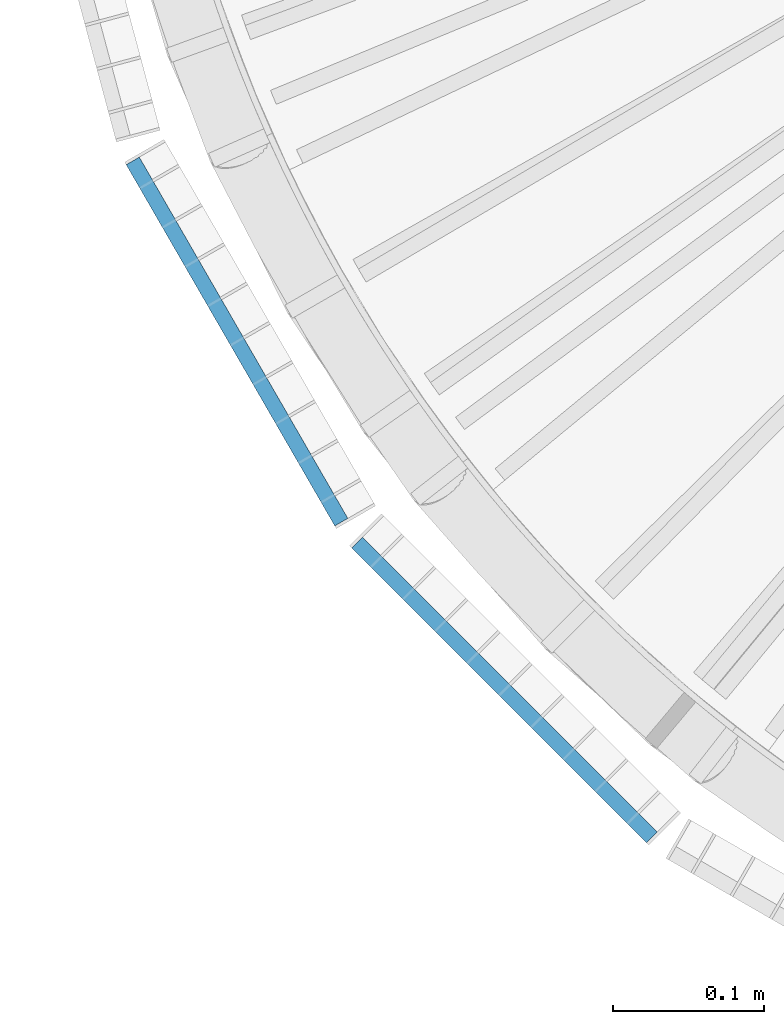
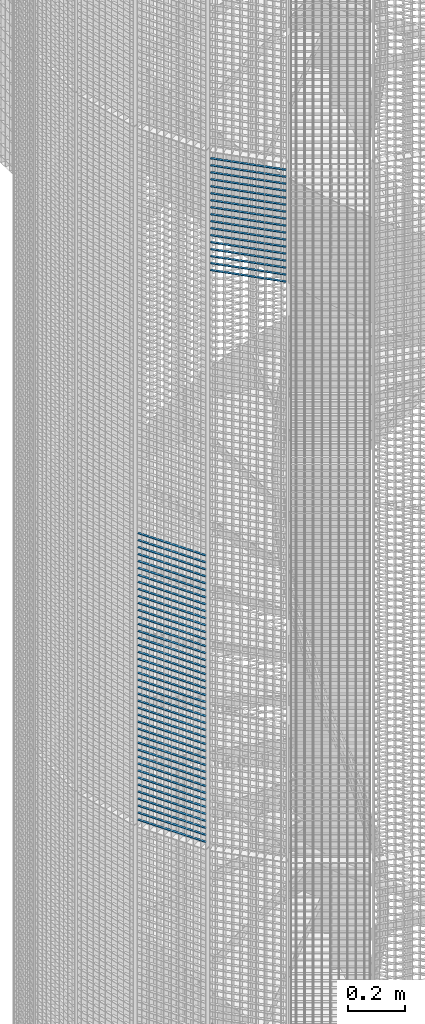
# One storey, part 373 of 1183: 59 beams, 2 elements without a shape of their own.
"""IFC2X3 building model written with IfcOpenShell, lengths in millimetres."""

from ifc_helpers import new_model, si_unit, frame, origin_with_axes, origin_2d_with_axis, place, context, subcontext, project, spatial, rectangle, extrude, material, type_object, element, aggregate, save


model = new_model("IFC2X3")

# Units and contexts
model_context = context("Model", 3, precision=1e-05, world=origin_with_axes())
body_context = subcontext(model_context, "Body", "Model", "MODEL_VIEW")
ifc_project = project(units=[si_unit("LENGTHUNIT", "METRE", prefix="MILLI"), si_unit("AREAUNIT", "SQUARE_METRE"), si_unit("VOLUMEUNIT", "CUBIC_METRE"), si_unit("MASSUNIT", "GRAM", prefix="KILO"), si_unit("TIMEUNIT", "SECOND"), si_unit("PLANEANGLEUNIT", "RADIAN"), si_unit("SOLIDANGLEUNIT", "STERADIAN"), si_unit("THERMODYNAMICTEMPERATUREUNIT", "DEGREE_CELSIUS"), si_unit("LUMINOUSINTENSITYUNIT", "LUMEN")], contexts=[model_context])

# Site, building, storey
site_placement = place(None, origin_with_axes())
site = spatial("IfcSite", under=ifc_project, at=site_placement, Name="Undefined", CompositionType="ELEMENT")
building_placement = place(site_placement, origin_with_axes())
building = spatial("IfcBuilding", under=site, at=building_placement, Name="Undefined", CompositionType="ELEMENT")
storey_placement = place(building_placement, origin_with_axes())
storey = spatial("IfcBuildingStorey", under=building, at=storey_placement, Name="Undefined", CompositionType="ELEMENT", Elevation=0.0)

# Assembly, beams
assembly_1_placement = place(storey_placement, origin_with_axes())
assembly_1 = element("IfcElementAssembly", 1, at=assembly_1_placement, inside=storey, Name="BORDURE", AssemblyPlace="NOTDEFINED", PredefinedType="NOTDEFINED")
ifc_material = material(Name="STEEL/S235JR")
beam_type = type_object("IfcBeamType", Name="PL2*10", PredefinedType="NOTDEFINED")
beam_1_placement = place(assembly_1_placement, frame((20704.6960350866, -676.248044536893, 4260.0), z_axis=(-0.866025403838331, -0.499999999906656, 0.0), x_axis=(-0.49999999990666, 0.866025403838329, 0.0)))
beam_1 = element("IfcBeam", 2, at=beam_1_placement, type_object=beam_type, material=ifc_material, Name="ENTRETOISE", context=body_context, shape_type="SweptSolid", body=[
    extrude(rectangle(XDim=2.0, YDim=10.0, at=origin_2d_with_axis()), frame((275.999999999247, 9.09494701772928e-13, 1.53210777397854e-14), z_axis=(-1.0, 0.0, 0.0), x_axis=(0.0, -1.0, 0.0)), (0.0, 0.0, 1.0), 276.0),
])
beam_2_placement = place(assembly_1_placement, frame((20704.6960350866, -676.248044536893, 4230.0), z_axis=(-0.866025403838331, -0.499999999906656, 0.0), x_axis=(-0.49999999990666, 0.866025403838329, 0.0)))
beam_2 = element("IfcBeam", 3, at=beam_2_placement, type_object=beam_type, material=ifc_material, Name="ENTRETOISE", context=body_context, shape_type="SweptSolid", body=[
    extrude(rectangle(XDim=2.0, YDim=10.0, at=origin_2d_with_axis()), frame((275.999999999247, 9.09494701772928e-13, 1.53210777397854e-14), z_axis=(-1.0, 0.0, 0.0), x_axis=(0.0, -1.0, 0.0)), (0.0, 0.0, 1.0), 276.0),
])
beam_3_placement = place(assembly_1_placement, frame((20704.6960350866, -676.248044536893, 4200.0), z_axis=(-0.866025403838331, -0.499999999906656, 0.0), x_axis=(-0.49999999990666, 0.866025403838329, 0.0)))
beam_3 = element("IfcBeam", 4, at=beam_3_placement, type_object=beam_type, material=ifc_material, Name="ENTRETOISE", context=body_context, shape_type="SweptSolid", body=[
    extrude(rectangle(XDim=2.0, YDim=10.0, at=origin_2d_with_axis()), frame((275.999999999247, 9.09494701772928e-13, 1.53210777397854e-14), z_axis=(-1.0, 0.0, 0.0), x_axis=(0.0, -1.0, 0.0)), (0.0, 0.0, 1.0), 276.0),
])
beam_4_placement = place(assembly_1_placement, frame((20704.6960350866, -676.248044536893, 4170.0), z_axis=(-0.866025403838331, -0.499999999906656, 0.0), x_axis=(-0.49999999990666, 0.866025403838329, 0.0)))
beam_4 = element("IfcBeam", 5, at=beam_4_placement, type_object=beam_type, material=ifc_material, Name="ENTRETOISE", context=body_context, shape_type="SweptSolid", body=[
    extrude(rectangle(XDim=2.0, YDim=10.0, at=origin_2d_with_axis()), frame((275.999999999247, 9.09494701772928e-13, 1.53210777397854e-14), z_axis=(-1.0, 0.0, 0.0), x_axis=(0.0, -1.0, 0.0)), (0.0, 0.0, 1.0), 276.0),
])
beam_5_placement = place(assembly_1_placement, frame((20704.6960350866, -676.248044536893, 4140.0), z_axis=(-0.866025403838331, -0.499999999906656, 0.0), x_axis=(-0.49999999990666, 0.866025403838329, 0.0)))
beam_5 = element("IfcBeam", 6, at=beam_5_placement, type_object=beam_type, material=ifc_material, Name="ENTRETOISE", context=body_context, shape_type="SweptSolid", body=[
    extrude(rectangle(XDim=2.0, YDim=10.0, at=origin_2d_with_axis()), frame((275.999999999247, 9.09494701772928e-13, 1.53210777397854e-14), z_axis=(-1.0, 0.0, 0.0), x_axis=(0.0, -1.0, 0.0)), (0.0, 0.0, 1.0), 276.0),
])
beam_6_placement = place(assembly_1_placement, frame((20704.6960350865, -676.248044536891, 3720.0), z_axis=(-0.866025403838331, -0.499999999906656, 0.0), x_axis=(-0.49999999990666, 0.866025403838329, 0.0)))
beam_6 = element("IfcBeam", 7, at=beam_6_placement, type_object=beam_type, material=ifc_material, Name="ENTRETOISE", context=body_context, shape_type="SweptSolid", body=[
    extrude(rectangle(XDim=2.0, YDim=10.0, at=origin_2d_with_axis()), frame((275.999999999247, 9.09494701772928e-13, 1.53210777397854e-14), z_axis=(-1.0, 0.0, 0.0), x_axis=(0.0, -1.0, 0.0)), (0.0, 0.0, 1.0), 276.0),
])
beam_7_placement = place(assembly_1_placement, frame((20704.6960350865, -676.248044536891, 3690.0), z_axis=(-0.866025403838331, -0.499999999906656, 0.0), x_axis=(-0.49999999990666, 0.866025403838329, 0.0)))
beam_7 = element("IfcBeam", 8, at=beam_7_placement, type_object=beam_type, material=ifc_material, Name="ENTRETOISE", context=body_context, shape_type="SweptSolid", body=[
    extrude(rectangle(XDim=2.0, YDim=10.0, at=origin_2d_with_axis()), frame((275.999999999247, 9.09494701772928e-13, 1.53210777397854e-14), z_axis=(-1.0, 0.0, 0.0), x_axis=(0.0, -1.0, 0.0)), (0.0, 0.0, 1.0), 276.0),
])
beam_8_placement = place(assembly_1_placement, frame((20704.6960350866, -676.248044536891, 3750.0), z_axis=(-0.866025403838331, -0.499999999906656, 0.0), x_axis=(-0.49999999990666, 0.866025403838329, 0.0)))
beam_8 = element("IfcBeam", 9, at=beam_8_placement, type_object=beam_type, material=ifc_material, Name="ENTRETOISE", context=body_context, shape_type="SweptSolid", body=[
    extrude(rectangle(XDim=2.0, YDim=10.0, at=origin_2d_with_axis()), frame((275.999999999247, 9.09494701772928e-13, 1.53210777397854e-14), z_axis=(-1.0, 0.0, 0.0), x_axis=(0.0, -1.0, 0.0)), (0.0, 0.0, 1.0), 276.0),
])
beam_9_placement = place(assembly_1_placement, frame((20704.6960350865, -676.248044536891, 3660.0), z_axis=(-0.866025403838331, -0.499999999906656, 0.0), x_axis=(-0.49999999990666, 0.866025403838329, 0.0)))
beam_9 = element("IfcBeam", 10, at=beam_9_placement, type_object=beam_type, material=ifc_material, Name="ENTRETOISE", context=body_context, shape_type="SweptSolid", body=[
    extrude(rectangle(XDim=2.0, YDim=10.0, at=origin_2d_with_axis()), frame((275.999999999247, 9.09494701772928e-13, 1.53210777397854e-14), z_axis=(-1.0, 0.0, 0.0), x_axis=(0.0, -1.0, 0.0)), (0.0, 0.0, 1.0), 276.0),
])
beam_10_placement = place(assembly_1_placement, frame((20704.6960350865, -676.248044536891, 3630.0), z_axis=(-0.866025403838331, -0.499999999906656, 0.0), x_axis=(-0.49999999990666, 0.866025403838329, 0.0)))
beam_10 = element("IfcBeam", 11, at=beam_10_placement, type_object=beam_type, material=ifc_material, Name="ENTRETOISE", context=body_context, shape_type="SweptSolid", body=[
    extrude(rectangle(XDim=2.0, YDim=10.0, at=origin_2d_with_axis()), frame((275.999999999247, 9.09494701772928e-13, 1.53210777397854e-14), z_axis=(-1.0, 0.0, 0.0), x_axis=(0.0, -1.0, 0.0)), (0.0, 0.0, 1.0), 276.0),
])
beam_11_placement = place(assembly_1_placement, frame((20704.6960350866, -676.248044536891, 3780.0), z_axis=(-0.866025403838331, -0.499999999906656, 0.0), x_axis=(-0.49999999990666, 0.866025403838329, 0.0)))
beam_11 = element("IfcBeam", 12, at=beam_11_placement, type_object=beam_type, material=ifc_material, Name="ENTRETOISE", context=body_context, shape_type="SweptSolid", body=[
    extrude(rectangle(XDim=2.0, YDim=10.0, at=origin_2d_with_axis()), frame((275.999999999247, 9.09494701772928e-13, 1.53210777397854e-14), z_axis=(-1.0, 0.0, 0.0), x_axis=(0.0, -1.0, 0.0)), (0.0, 0.0, 1.0), 276.0),
])
beam_12_placement = place(assembly_1_placement, frame((20704.6960350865, -676.248044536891, 3600.0), z_axis=(-0.866025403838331, -0.499999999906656, 0.0), x_axis=(-0.49999999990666, 0.866025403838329, 0.0)))
beam_12 = element("IfcBeam", 13, at=beam_12_placement, type_object=beam_type, material=ifc_material, Name="ENTRETOISE", context=body_context, shape_type="SweptSolid", body=[
    extrude(rectangle(XDim=2.0, YDim=10.0, at=origin_2d_with_axis()), frame((275.999999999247, 9.09494701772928e-13, 1.53210777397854e-14), z_axis=(-1.0, 0.0, 0.0), x_axis=(0.0, -1.0, 0.0)), (0.0, 0.0, 1.0), 276.0),
])
beam_13_placement = place(assembly_1_placement, frame((20704.6960350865, -676.248044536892, 3810.0), z_axis=(-0.866025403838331, -0.499999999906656, 0.0), x_axis=(-0.49999999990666, 0.866025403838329, 0.0)))
beam_13 = element("IfcBeam", 14, at=beam_13_placement, type_object=beam_type, material=ifc_material, Name="ENTRETOISE", context=body_context, shape_type="SweptSolid", body=[
    extrude(rectangle(XDim=2.0, YDim=10.0, at=origin_2d_with_axis()), frame((275.999999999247, 9.09494701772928e-13, 1.53210777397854e-14), z_axis=(-1.0, 0.0, 0.0), x_axis=(0.0, -1.0, 0.0)), (0.0, 0.0, 1.0), 276.0),
])
beam_14_placement = place(assembly_1_placement, frame((20704.6960350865, -676.248044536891, 3570.0), z_axis=(-0.866025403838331, -0.499999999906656, 0.0), x_axis=(-0.49999999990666, 0.866025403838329, 0.0)))
beam_14 = element("IfcBeam", 15, at=beam_14_placement, type_object=beam_type, material=ifc_material, Name="ENTRETOISE", context=body_context, shape_type="SweptSolid", body=[
    extrude(rectangle(XDim=2.0, YDim=10.0, at=origin_2d_with_axis()), frame((275.999999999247, 9.09494701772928e-13, 1.53210777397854e-14), z_axis=(-1.0, 0.0, 0.0), x_axis=(0.0, -1.0, 0.0)), (0.0, 0.0, 1.0), 276.0),
])
beam_15_placement = place(assembly_1_placement, frame((20704.6960350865, -676.248044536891, 3540.0), z_axis=(-0.866025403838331, -0.499999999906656, 0.0), x_axis=(-0.49999999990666, 0.866025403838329, 0.0)))
beam_15 = element("IfcBeam", 16, at=beam_15_placement, type_object=beam_type, material=ifc_material, Name="ENTRETOISE", context=body_context, shape_type="SweptSolid", body=[
    extrude(rectangle(XDim=2.0, YDim=10.0, at=origin_2d_with_axis()), frame((275.999999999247, 9.09494701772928e-13, 1.53210777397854e-14), z_axis=(-1.0, 0.0, 0.0), x_axis=(0.0, -1.0, 0.0)), (0.0, 0.0, 1.0), 276.0),
])
beam_16_placement = place(assembly_1_placement, frame((20704.6960350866, -676.248044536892, 3840.0), z_axis=(-0.866025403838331, -0.499999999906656, 0.0), x_axis=(-0.49999999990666, 0.866025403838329, 0.0)))
beam_16 = element("IfcBeam", 17, at=beam_16_placement, type_object=beam_type, material=ifc_material, Name="ENTRETOISE", context=body_context, shape_type="SweptSolid", body=[
    extrude(rectangle(XDim=2.0, YDim=10.0, at=origin_2d_with_axis()), frame((275.999999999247, 9.09494701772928e-13, 1.53210777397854e-14), z_axis=(-1.0, 0.0, 0.0), x_axis=(0.0, -1.0, 0.0)), (0.0, 0.0, 1.0), 276.0),
])
beam_17_placement = place(assembly_1_placement, frame((20704.6960350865, -676.248044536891, 3510.0), z_axis=(-0.866025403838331, -0.499999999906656, 0.0), x_axis=(-0.49999999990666, 0.866025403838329, 0.0)))
beam_17 = element("IfcBeam", 18, at=beam_17_placement, type_object=beam_type, material=ifc_material, Name="ENTRETOISE", context=body_context, shape_type="SweptSolid", body=[
    extrude(rectangle(XDim=2.0, YDim=10.0, at=origin_2d_with_axis()), frame((275.999999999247, 9.09494701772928e-13, 1.53210777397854e-14), z_axis=(-1.0, 0.0, 0.0), x_axis=(0.0, -1.0, 0.0)), (0.0, 0.0, 1.0), 276.0),
])
beam_18_placement = place(assembly_1_placement, frame((20704.6960350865, -676.248044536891, 3480.0), z_axis=(-0.866025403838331, -0.499999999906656, 0.0), x_axis=(-0.49999999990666, 0.866025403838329, 0.0)))
beam_18 = element("IfcBeam", 19, at=beam_18_placement, type_object=beam_type, material=ifc_material, Name="ENTRETOISE", context=body_context, shape_type="SweptSolid", body=[
    extrude(rectangle(XDim=2.0, YDim=10.0, at=origin_2d_with_axis()), frame((275.999999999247, 9.09494701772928e-13, 1.53210777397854e-14), z_axis=(-1.0, 0.0, 0.0), x_axis=(0.0, -1.0, 0.0)), (0.0, 0.0, 1.0), 276.0),
])
beam_19_placement = place(assembly_1_placement, frame((20704.6960350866, -676.248044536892, 3870.0), z_axis=(-0.866025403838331, -0.499999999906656, 0.0), x_axis=(-0.49999999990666, 0.866025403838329, 0.0)))
beam_19 = element("IfcBeam", 20, at=beam_19_placement, type_object=beam_type, material=ifc_material, Name="ENTRETOISE", context=body_context, shape_type="SweptSolid", body=[
    extrude(rectangle(XDim=2.0, YDim=10.0, at=origin_2d_with_axis()), frame((275.999999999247, 9.09494701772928e-13, 1.53210777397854e-14), z_axis=(-1.0, 0.0, 0.0), x_axis=(0.0, -1.0, 0.0)), (0.0, 0.0, 1.0), 276.0),
])
beam_20_placement = place(assembly_1_placement, frame((20704.6960350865, -676.248044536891, 3450.0), z_axis=(-0.866025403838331, -0.499999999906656, 0.0), x_axis=(-0.49999999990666, 0.866025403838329, 0.0)))
beam_20 = element("IfcBeam", 21, at=beam_20_placement, type_object=beam_type, material=ifc_material, Name="ENTRETOISE", context=body_context, shape_type="SweptSolid", body=[
    extrude(rectangle(XDim=2.0, YDim=10.0, at=origin_2d_with_axis()), frame((275.999999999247, 9.09494701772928e-13, 1.53210777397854e-14), z_axis=(-1.0, 0.0, 0.0), x_axis=(0.0, -1.0, 0.0)), (0.0, 0.0, 1.0), 276.0),
])
beam_21_placement = place(assembly_1_placement, frame((20704.6960350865, -676.24804453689, 3420.0), z_axis=(-0.866025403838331, -0.499999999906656, 0.0), x_axis=(-0.49999999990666, 0.866025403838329, 0.0)))
beam_21 = element("IfcBeam", 22, at=beam_21_placement, type_object=beam_type, material=ifc_material, Name="ENTRETOISE", context=body_context, shape_type="SweptSolid", body=[
    extrude(rectangle(XDim=2.0, YDim=10.0, at=origin_2d_with_axis()), frame((275.999999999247, 9.09494701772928e-13, 1.53210777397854e-14), z_axis=(-1.0, 0.0, 0.0), x_axis=(0.0, -1.0, 0.0)), (0.0, 0.0, 1.0), 276.0),
])
beam_22_placement = place(assembly_1_placement, frame((20704.6960350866, -676.248044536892, 3900.0), z_axis=(-0.866025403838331, -0.499999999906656, 0.0), x_axis=(-0.49999999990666, 0.866025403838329, 0.0)))
beam_22 = element("IfcBeam", 23, at=beam_22_placement, type_object=beam_type, material=ifc_material, Name="ENTRETOISE", context=body_context, shape_type="SweptSolid", body=[
    extrude(rectangle(XDim=2.0, YDim=10.0, at=origin_2d_with_axis()), frame((275.999999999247, 9.09494701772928e-13, 1.53210777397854e-14), z_axis=(-1.0, 0.0, 0.0), x_axis=(0.0, -1.0, 0.0)), (0.0, 0.0, 1.0), 276.0),
])
beam_23_placement = place(assembly_1_placement, frame((20704.6960350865, -676.24804453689, 3390.0), z_axis=(-0.866025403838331, -0.499999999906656, 0.0), x_axis=(-0.49999999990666, 0.866025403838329, 0.0)))
beam_23 = element("IfcBeam", 24, at=beam_23_placement, type_object=beam_type, material=ifc_material, Name="ENTRETOISE", context=body_context, shape_type="SweptSolid", body=[
    extrude(rectangle(XDim=2.0, YDim=10.0, at=origin_2d_with_axis()), frame((275.999999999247, 9.09494701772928e-13, 1.53210777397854e-14), z_axis=(-1.0, 0.0, 0.0), x_axis=(0.0, -1.0, 0.0)), (0.0, 0.0, 1.0), 276.0),
])
beam_24_placement = place(assembly_1_placement, frame((20704.6960350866, -676.248044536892, 3930.0), z_axis=(-0.866025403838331, -0.499999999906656, 0.0), x_axis=(-0.49999999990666, 0.866025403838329, 0.0)))
beam_24 = element("IfcBeam", 25, at=beam_24_placement, type_object=beam_type, material=ifc_material, Name="ENTRETOISE", context=body_context, shape_type="SweptSolid", body=[
    extrude(rectangle(XDim=2.0, YDim=10.0, at=origin_2d_with_axis()), frame((275.999999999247, 9.09494701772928e-13, 1.53210777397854e-14), z_axis=(-1.0, 0.0, 0.0), x_axis=(0.0, -1.0, 0.0)), (0.0, 0.0, 1.0), 276.0),
])
beam_25_placement = place(assembly_1_placement, frame((20704.6960350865, -676.24804453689, 3360.0), z_axis=(-0.866025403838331, -0.499999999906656, 0.0), x_axis=(-0.49999999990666, 0.866025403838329, 0.0)))
beam_25 = element("IfcBeam", 26, at=beam_25_placement, type_object=beam_type, material=ifc_material, Name="ENTRETOISE", context=body_context, shape_type="SweptSolid", body=[
    extrude(rectangle(XDim=2.0, YDim=10.0, at=origin_2d_with_axis()), frame((275.999999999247, 9.09494701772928e-13, 1.53210777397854e-14), z_axis=(-1.0, 0.0, 0.0), x_axis=(0.0, -1.0, 0.0)), (0.0, 0.0, 1.0), 276.0),
])
beam_26_placement = place(assembly_1_placement, frame((20704.6960350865, -676.24804453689, 3330.0), z_axis=(-0.866025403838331, -0.499999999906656, 0.0), x_axis=(-0.49999999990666, 0.866025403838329, 0.0)))
beam_26 = element("IfcBeam", 27, at=beam_26_placement, type_object=beam_type, material=ifc_material, Name="ENTRETOISE", context=body_context, shape_type="SweptSolid", body=[
    extrude(rectangle(XDim=2.0, YDim=10.0, at=origin_2d_with_axis()), frame((275.999999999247, 9.09494701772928e-13, 1.53210777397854e-14), z_axis=(-1.0, 0.0, 0.0), x_axis=(0.0, -1.0, 0.0)), (0.0, 0.0, 1.0), 276.0),
])
beam_27_placement = place(assembly_1_placement, frame((20704.6960350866, -676.248044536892, 3960.0), z_axis=(-0.866025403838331, -0.499999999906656, 0.0), x_axis=(-0.49999999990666, 0.866025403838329, 0.0)))
beam_27 = element("IfcBeam", 28, at=beam_27_placement, type_object=beam_type, material=ifc_material, Name="ENTRETOISE", context=body_context, shape_type="SweptSolid", body=[
    extrude(rectangle(XDim=2.0, YDim=10.0, at=origin_2d_with_axis()), frame((275.999999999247, 9.09494701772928e-13, 1.53210777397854e-14), z_axis=(-1.0, 0.0, 0.0), x_axis=(0.0, -1.0, 0.0)), (0.0, 0.0, 1.0), 276.0),
])
beam_28_placement = place(assembly_1_placement, frame((20704.6960350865, -676.24804453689, 3300.0), z_axis=(-0.866025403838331, -0.499999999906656, 0.0), x_axis=(-0.49999999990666, 0.866025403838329, 0.0)))
beam_28 = element("IfcBeam", 29, at=beam_28_placement, type_object=beam_type, material=ifc_material, Name="ENTRETOISE", context=body_context, shape_type="SweptSolid", body=[
    extrude(rectangle(XDim=2.0, YDim=10.0, at=origin_2d_with_axis()), frame((275.999999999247, 9.09494701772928e-13, 1.53210777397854e-14), z_axis=(-1.0, 0.0, 0.0), x_axis=(0.0, -1.0, 0.0)), (0.0, 0.0, 1.0), 276.0),
])
beam_29_placement = place(assembly_1_placement, frame((20704.6960350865, -676.24804453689, 3270.0), z_axis=(-0.866025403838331, -0.499999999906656, 0.0), x_axis=(-0.49999999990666, 0.866025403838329, 0.0)))
beam_29 = element("IfcBeam", 30, at=beam_29_placement, type_object=beam_type, material=ifc_material, Name="ENTRETOISE", context=body_context, shape_type="SweptSolid", body=[
    extrude(rectangle(XDim=2.0, YDim=10.0, at=origin_2d_with_axis()), frame((275.999999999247, 9.09494701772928e-13, 1.53210777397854e-14), z_axis=(-1.0, 0.0, 0.0), x_axis=(0.0, -1.0, 0.0)), (0.0, 0.0, 1.0), 276.0),
])
beam_30_placement = place(assembly_1_placement, frame((20704.6960350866, -676.248044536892, 3990.0), z_axis=(-0.866025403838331, -0.499999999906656, 0.0), x_axis=(-0.49999999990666, 0.866025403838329, 0.0)))
beam_30 = element("IfcBeam", 31, at=beam_30_placement, type_object=beam_type, material=ifc_material, Name="ENTRETOISE", context=body_context, shape_type="SweptSolid", body=[
    extrude(rectangle(XDim=2.0, YDim=10.0, at=origin_2d_with_axis()), frame((275.999999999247, 9.09494701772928e-13, 1.53210777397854e-14), z_axis=(-1.0, 0.0, 0.0), x_axis=(0.0, -1.0, 0.0)), (0.0, 0.0, 1.0), 276.0),
])
beam_31_placement = place(assembly_1_placement, frame((20704.6960350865, -676.24804453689, 3240.0), z_axis=(-0.866025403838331, -0.499999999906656, 0.0), x_axis=(-0.49999999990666, 0.866025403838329, 0.0)))
beam_31 = element("IfcBeam", 32, at=beam_31_placement, type_object=beam_type, material=ifc_material, Name="ENTRETOISE", context=body_context, shape_type="SweptSolid", body=[
    extrude(rectangle(XDim=2.0, YDim=10.0, at=origin_2d_with_axis()), frame((275.999999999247, 9.09494701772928e-13, 1.53210777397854e-14), z_axis=(-1.0, 0.0, 0.0), x_axis=(0.0, -1.0, 0.0)), (0.0, 0.0, 1.0), 276.0),
])
beam_32_placement = place(assembly_1_placement, frame((20704.6960350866, -676.248044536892, 4020.0), z_axis=(-0.866025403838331, -0.499999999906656, 0.0), x_axis=(-0.49999999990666, 0.866025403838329, 0.0)))
beam_32 = element("IfcBeam", 33, at=beam_32_placement, type_object=beam_type, material=ifc_material, Name="ENTRETOISE", context=body_context, shape_type="SweptSolid", body=[
    extrude(rectangle(XDim=2.0, YDim=10.0, at=origin_2d_with_axis()), frame((275.999999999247, 9.09494701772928e-13, 1.53210777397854e-14), z_axis=(-1.0, 0.0, 0.0), x_axis=(0.0, -1.0, 0.0)), (0.0, 0.0, 1.0), 276.0),
])
beam_33_placement = place(assembly_1_placement, frame((20704.6960350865, -676.24804453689, 3210.0), z_axis=(-0.866025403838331, -0.499999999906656, 0.0), x_axis=(-0.49999999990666, 0.866025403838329, 0.0)))
beam_33 = element("IfcBeam", 34, at=beam_33_placement, type_object=beam_type, material=ifc_material, Name="ENTRETOISE", context=body_context, shape_type="SweptSolid", body=[
    extrude(rectangle(XDim=2.0, YDim=10.0, at=origin_2d_with_axis()), frame((275.999999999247, 9.09494701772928e-13, 1.53210777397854e-14), z_axis=(-1.0, 0.0, 0.0), x_axis=(0.0, -1.0, 0.0)), (0.0, 0.0, 1.0), 276.0),
])
beam_34_placement = place(assembly_1_placement, frame((20704.6960350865, -676.24804453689, 3180.0), z_axis=(-0.866025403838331, -0.499999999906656, 0.0), x_axis=(-0.49999999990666, 0.866025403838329, 0.0)))
beam_34 = element("IfcBeam", 35, at=beam_34_placement, type_object=beam_type, material=ifc_material, Name="ENTRETOISE", context=body_context, shape_type="SweptSolid", body=[
    extrude(rectangle(XDim=2.0, YDim=10.0, at=origin_2d_with_axis()), frame((275.999999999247, 9.09494701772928e-13, 1.53210777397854e-14), z_axis=(-1.0, 0.0, 0.0), x_axis=(0.0, -1.0, 0.0)), (0.0, 0.0, 1.0), 276.0),
])
beam_35_placement = place(assembly_1_placement, frame((20704.6960350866, -676.248044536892, 4050.0), z_axis=(-0.866025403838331, -0.499999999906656, 0.0), x_axis=(-0.49999999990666, 0.866025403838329, 0.0)))
beam_35 = element("IfcBeam", 36, at=beam_35_placement, type_object=beam_type, material=ifc_material, Name="ENTRETOISE", context=body_context, shape_type="SweptSolid", body=[
    extrude(rectangle(XDim=2.0, YDim=10.0, at=origin_2d_with_axis()), frame((275.999999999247, 9.09494701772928e-13, 1.53210777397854e-14), z_axis=(-1.0, 0.0, 0.0), x_axis=(0.0, -1.0, 0.0)), (0.0, 0.0, 1.0), 276.0),
])
beam_36_placement = place(assembly_1_placement, frame((20704.6960350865, -676.24804453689, 3150.0), z_axis=(-0.866025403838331, -0.499999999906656, 0.0), x_axis=(-0.49999999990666, 0.866025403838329, 0.0)))
beam_36 = element("IfcBeam", 37, at=beam_36_placement, type_object=beam_type, material=ifc_material, Name="ENTRETOISE", context=body_context, shape_type="SweptSolid", body=[
    extrude(rectangle(XDim=2.0, YDim=10.0, at=origin_2d_with_axis()), frame((275.999999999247, 9.09494701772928e-13, 1.53210777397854e-14), z_axis=(-1.0, 0.0, 0.0), x_axis=(0.0, -1.0, 0.0)), (0.0, 0.0, 1.0), 276.0),
])
beam_37_placement = place(assembly_1_placement, frame((20704.6960350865, -676.24804453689, 3120.0), z_axis=(-0.866025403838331, -0.499999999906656, 0.0), x_axis=(-0.49999999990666, 0.866025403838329, 0.0)))
beam_37 = element("IfcBeam", 38, at=beam_37_placement, type_object=beam_type, material=ifc_material, Name="ENTRETOISE", context=body_context, shape_type="SweptSolid", body=[
    extrude(rectangle(XDim=2.0, YDim=10.0, at=origin_2d_with_axis()), frame((275.999999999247, 9.09494701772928e-13, 1.53210777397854e-14), z_axis=(-1.0, 0.0, 0.0), x_axis=(0.0, -1.0, 0.0)), (0.0, 0.0, 1.0), 276.0),
])
beam_38_placement = place(assembly_1_placement, frame((20704.6960350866, -676.248044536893, 4080.0), z_axis=(-0.866025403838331, -0.499999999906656, 0.0), x_axis=(-0.49999999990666, 0.866025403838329, 0.0)))
beam_38 = element("IfcBeam", 39, at=beam_38_placement, type_object=beam_type, material=ifc_material, Name="ENTRETOISE", context=body_context, shape_type="SweptSolid", body=[
    extrude(rectangle(XDim=2.0, YDim=10.0, at=origin_2d_with_axis()), frame((275.999999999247, 9.09494701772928e-13, 1.53210777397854e-14), z_axis=(-1.0, 0.0, 0.0), x_axis=(0.0, -1.0, 0.0)), (0.0, 0.0, 1.0), 276.0),
])
beam_39_placement = place(assembly_1_placement, frame((20704.6960350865, -676.248044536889, 3090.0), z_axis=(-0.866025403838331, -0.499999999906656, 0.0), x_axis=(-0.49999999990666, 0.866025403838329, 0.0)))
beam_39 = element("IfcBeam", 40, at=beam_39_placement, type_object=beam_type, material=ifc_material, Name="ENTRETOISE", context=body_context, shape_type="SweptSolid", body=[
    extrude(rectangle(XDim=2.0, YDim=10.0, at=origin_2d_with_axis()), frame((275.999999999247, 9.09494701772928e-13, 1.53210777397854e-14), z_axis=(-1.0, 0.0, 0.0), x_axis=(0.0, -1.0, 0.0)), (0.0, 0.0, 1.0), 276.0),
])
beam_40_placement = place(assembly_1_placement, frame((20704.6960350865, -676.248044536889, 3060.0), z_axis=(-0.866025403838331, -0.499999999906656, 0.0), x_axis=(-0.49999999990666, 0.866025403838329, 0.0)))
beam_40 = element("IfcBeam", 41, at=beam_40_placement, type_object=beam_type, material=ifc_material, Name="ENTRETOISE", context=body_context, shape_type="SweptSolid", body=[
    extrude(rectangle(XDim=2.0, YDim=10.0, at=origin_2d_with_axis()), frame((275.999999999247, 9.09494701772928e-13, 1.53210777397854e-14), z_axis=(-1.0, 0.0, 0.0), x_axis=(0.0, -1.0, 0.0)), (0.0, 0.0, 1.0), 276.0),
])
beam_41_placement = place(assembly_1_placement, frame((20704.6960350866, -676.248044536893, 4110.0), z_axis=(-0.866025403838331, -0.499999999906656, 0.0), x_axis=(-0.49999999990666, 0.866025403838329, 0.0)))
beam_41 = element("IfcBeam", 42, at=beam_41_placement, type_object=beam_type, material=ifc_material, Name="ENTRETOISE", context=body_context, shape_type="SweptSolid", body=[
    extrude(rectangle(XDim=2.0, YDim=10.0, at=origin_2d_with_axis()), frame((275.999999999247, 9.09494701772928e-13, 1.53210777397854e-14), z_axis=(-1.0, 0.0, 0.0), x_axis=(0.0, -1.0, 0.0)), (0.0, 0.0, 1.0), 276.0),
])
beam_42_placement = place(assembly_1_placement, frame((20704.6960350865, -676.248044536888, 3030.0), z_axis=(-0.866025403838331, -0.499999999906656, 0.0), x_axis=(-0.49999999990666, 0.866025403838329, 0.0)))
beam_42 = element("IfcBeam", 43, at=beam_42_placement, type_object=beam_type, material=ifc_material, Name="ENTRETOISE", context=body_context, shape_type="SweptSolid", body=[
    extrude(rectangle(XDim=2.0, YDim=10.0, at=origin_2d_with_axis()), frame((275.999999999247, 9.09494701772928e-13, 1.53210777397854e-14), z_axis=(-1.0, 0.0, 0.0), x_axis=(0.0, -1.0, 0.0)), (0.0, 0.0, 1.0), 276.0),
])
aggregate(assembly_1, [beam_1, beam_2, beam_3, beam_4, beam_5, beam_6, beam_7, beam_8, beam_9, beam_10, beam_11, beam_12, beam_13, beam_14, beam_15, beam_16, beam_17, beam_18, beam_19, beam_20, beam_21, beam_22, beam_23, beam_24, beam_25, beam_26, beam_27, beam_28, beam_29, beam_30, beam_31, beam_32, beam_33, beam_34, beam_35, beam_36, beam_37, beam_38, beam_39, beam_40, beam_41, beam_42])

assembly_2_placement = place(storey_placement, origin_with_axes())
assembly_2 = element("IfcElementAssembly", 44, at=assembly_2_placement, inside=storey, Name="BORDURE", AssemblyPlace="NOTDEFINED", PredefinedType="NOTDEFINED")
beam_43_placement = place(assembly_2_placement, frame((20910.2286510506, -884.927168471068, 5970.0), z_axis=(-0.70710678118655, -0.707106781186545, 0.0), x_axis=(-0.707106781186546, 0.707106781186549, 0.0)))
beam_43 = element("IfcBeam", 45, at=beam_43_placement, type_object=beam_type, material=ifc_material, Name="ENTRETOISE", context=body_context, shape_type="SweptSolid", body=[
    extrude(rectangle(XDim=2.0, YDim=10.0, at=origin_2d_with_axis()), frame((275.999999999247, 9.09494701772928e-13, 1.53210777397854e-14), z_axis=(-1.0, 0.0, 0.0), x_axis=(0.0, -1.0, 0.0)), (0.0, 0.0, 1.0), 276.0),
])
beam_44_placement = place(assembly_2_placement, frame((20910.2286510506, -884.927168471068, 5940.0), z_axis=(-0.70710678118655, -0.707106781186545, 0.0), x_axis=(-0.707106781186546, 0.707106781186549, 0.0)))
beam_44 = element("IfcBeam", 46, at=beam_44_placement, type_object=beam_type, material=ifc_material, Name="ENTRETOISE", context=body_context, shape_type="SweptSolid", body=[
    extrude(rectangle(XDim=2.0, YDim=10.0, at=origin_2d_with_axis()), frame((275.999999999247, 9.09494701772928e-13, 1.53210777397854e-14), z_axis=(-1.0, 0.0, 0.0), x_axis=(0.0, -1.0, 0.0)), (0.0, 0.0, 1.0), 276.0),
])
beam_45_placement = place(assembly_2_placement, frame((20910.2286510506, -884.927168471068, 5910.0), z_axis=(-0.70710678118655, -0.707106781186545, 0.0), x_axis=(-0.707106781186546, 0.707106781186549, 0.0)))
beam_45 = element("IfcBeam", 47, at=beam_45_placement, type_object=beam_type, material=ifc_material, Name="ENTRETOISE", context=body_context, shape_type="SweptSolid", body=[
    extrude(rectangle(XDim=2.0, YDim=10.0, at=origin_2d_with_axis()), frame((275.999999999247, 9.09494701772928e-13, 1.53210777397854e-14), z_axis=(-1.0, 0.0, 0.0), x_axis=(0.0, -1.0, 0.0)), (0.0, 0.0, 1.0), 276.0),
])
beam_46_placement = place(assembly_2_placement, frame((20910.2286510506, -884.927168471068, 5880.0), z_axis=(-0.70710678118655, -0.707106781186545, 0.0), x_axis=(-0.707106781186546, 0.707106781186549, 0.0)))
beam_46 = element("IfcBeam", 48, at=beam_46_placement, type_object=beam_type, material=ifc_material, Name="ENTRETOISE", context=body_context, shape_type="SweptSolid", body=[
    extrude(rectangle(XDim=2.0, YDim=10.0, at=origin_2d_with_axis()), frame((275.999999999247, 9.09494701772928e-13, 1.53210777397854e-14), z_axis=(-1.0, 0.0, 0.0), x_axis=(0.0, -1.0, 0.0)), (0.0, 0.0, 1.0), 276.0),
])
beam_47_placement = place(assembly_2_placement, frame((20910.2286510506, -884.927168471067, 5850.0), z_axis=(-0.70710678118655, -0.707106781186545, 0.0), x_axis=(-0.707106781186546, 0.707106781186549, 0.0)))
beam_47 = element("IfcBeam", 49, at=beam_47_placement, type_object=beam_type, material=ifc_material, Name="ENTRETOISE", context=body_context, shape_type="SweptSolid", body=[
    extrude(rectangle(XDim=2.0, YDim=10.0, at=origin_2d_with_axis()), frame((275.999999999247, 9.09494701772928e-13, 1.53210777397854e-14), z_axis=(-1.0, 0.0, 0.0), x_axis=(0.0, -1.0, 0.0)), (0.0, 0.0, 1.0), 276.0),
])
beam_48_placement = place(assembly_2_placement, frame((20910.2286510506, -884.927168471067, 5820.0), z_axis=(-0.70710678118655, -0.707106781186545, 0.0), x_axis=(-0.707106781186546, 0.707106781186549, 0.0)))
beam_48 = element("IfcBeam", 50, at=beam_48_placement, type_object=beam_type, material=ifc_material, Name="ENTRETOISE", context=body_context, shape_type="SweptSolid", body=[
    extrude(rectangle(XDim=2.0, YDim=10.0, at=origin_2d_with_axis()), frame((275.999999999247, 9.09494701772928e-13, 1.53210777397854e-14), z_axis=(-1.0, 0.0, 0.0), x_axis=(0.0, -1.0, 0.0)), (0.0, 0.0, 1.0), 276.0),
])
beam_49_placement = place(assembly_2_placement, frame((20910.2286510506, -884.927168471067, 5790.0), z_axis=(-0.70710678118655, -0.707106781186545, 0.0), x_axis=(-0.707106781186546, 0.707106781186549, 0.0)))
beam_49 = element("IfcBeam", 51, at=beam_49_placement, type_object=beam_type, material=ifc_material, Name="ENTRETOISE", context=body_context, shape_type="SweptSolid", body=[
    extrude(rectangle(XDim=2.0, YDim=10.0, at=origin_2d_with_axis()), frame((275.999999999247, 9.09494701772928e-13, 1.53210777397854e-14), z_axis=(-1.0, 0.0, 0.0), x_axis=(0.0, -1.0, 0.0)), (0.0, 0.0, 1.0), 276.0),
])
beam_50_placement = place(assembly_2_placement, frame((20910.2286510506, -884.927168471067, 5760.0), z_axis=(-0.70710678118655, -0.707106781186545, 0.0), x_axis=(-0.707106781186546, 0.707106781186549, 0.0)))
beam_50 = element("IfcBeam", 52, at=beam_50_placement, type_object=beam_type, material=ifc_material, Name="ENTRETOISE", context=body_context, shape_type="SweptSolid", body=[
    extrude(rectangle(XDim=2.0, YDim=10.0, at=origin_2d_with_axis()), frame((275.999999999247, 9.09494701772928e-13, 1.53210777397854e-14), z_axis=(-1.0, 0.0, 0.0), x_axis=(0.0, -1.0, 0.0)), (0.0, 0.0, 1.0), 276.0),
])
beam_51_placement = place(assembly_2_placement, frame((20910.2286510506, -884.927168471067, 5730.0), z_axis=(-0.70710678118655, -0.707106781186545, 0.0), x_axis=(-0.707106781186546, 0.707106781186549, 0.0)))
beam_51 = element("IfcBeam", 53, at=beam_51_placement, type_object=beam_type, material=ifc_material, Name="ENTRETOISE", context=body_context, shape_type="SweptSolid", body=[
    extrude(rectangle(XDim=2.0, YDim=10.0, at=origin_2d_with_axis()), frame((275.999999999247, 9.09494701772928e-13, 1.53210777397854e-14), z_axis=(-1.0, 0.0, 0.0), x_axis=(0.0, -1.0, 0.0)), (0.0, 0.0, 1.0), 276.0),
])
beam_52_placement = place(assembly_2_placement, frame((20910.2286510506, -884.927168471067, 5700.0), z_axis=(-0.70710678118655, -0.707106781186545, 0.0), x_axis=(-0.707106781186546, 0.707106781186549, 0.0)))
beam_52 = element("IfcBeam", 54, at=beam_52_placement, type_object=beam_type, material=ifc_material, Name="ENTRETOISE", context=body_context, shape_type="SweptSolid", body=[
    extrude(rectangle(XDim=2.0, YDim=10.0, at=origin_2d_with_axis()), frame((275.999999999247, 9.09494701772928e-13, 1.53210777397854e-14), z_axis=(-1.0, 0.0, 0.0), x_axis=(0.0, -1.0, 0.0)), (0.0, 0.0, 1.0), 276.0),
])
beam_53_placement = place(assembly_2_placement, frame((20910.2286510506, -884.927168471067, 5670.0), z_axis=(-0.70710678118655, -0.707106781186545, 0.0), x_axis=(-0.707106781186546, 0.707106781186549, 0.0)))
beam_53 = element("IfcBeam", 55, at=beam_53_placement, type_object=beam_type, material=ifc_material, Name="ENTRETOISE", context=body_context, shape_type="SweptSolid", body=[
    extrude(rectangle(XDim=2.0, YDim=10.0, at=origin_2d_with_axis()), frame((275.999999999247, 9.09494701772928e-13, 1.53210777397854e-14), z_axis=(-1.0, 0.0, 0.0), x_axis=(0.0, -1.0, 0.0)), (0.0, 0.0, 1.0), 276.0),
])
beam_54_placement = place(assembly_2_placement, frame((20910.2286510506, -884.927168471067, 5640.0), z_axis=(-0.70710678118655, -0.707106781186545, 0.0), x_axis=(-0.707106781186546, 0.707106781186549, 0.0)))
beam_54 = element("IfcBeam", 56, at=beam_54_placement, type_object=beam_type, material=ifc_material, Name="ENTRETOISE", context=body_context, shape_type="SweptSolid", body=[
    extrude(rectangle(XDim=2.0, YDim=10.0, at=origin_2d_with_axis()), frame((275.999999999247, 9.09494701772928e-13, 1.53210777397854e-14), z_axis=(-1.0, 0.0, 0.0), x_axis=(0.0, -1.0, 0.0)), (0.0, 0.0, 1.0), 276.0),
])
beam_55_placement = place(assembly_2_placement, frame((20910.2286510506, -884.927168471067, 5610.0), z_axis=(-0.70710678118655, -0.707106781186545, 0.0), x_axis=(-0.707106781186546, 0.707106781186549, 0.0)))
beam_55 = element("IfcBeam", 57, at=beam_55_placement, type_object=beam_type, material=ifc_material, Name="ENTRETOISE", context=body_context, shape_type="SweptSolid", body=[
    extrude(rectangle(XDim=2.0, YDim=10.0, at=origin_2d_with_axis()), frame((275.999999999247, 9.09494701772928e-13, 1.53210777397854e-14), z_axis=(-1.0, 0.0, 0.0), x_axis=(0.0, -1.0, 0.0)), (0.0, 0.0, 1.0), 276.0),
])
beam_56_placement = place(assembly_2_placement, frame((20910.2286510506, -884.927168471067, 5580.0), z_axis=(-0.70710678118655, -0.707106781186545, 0.0), x_axis=(-0.707106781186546, 0.707106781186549, 0.0)))
beam_56 = element("IfcBeam", 58, at=beam_56_placement, type_object=beam_type, material=ifc_material, Name="ENTRETOISE", context=body_context, shape_type="SweptSolid", body=[
    extrude(rectangle(XDim=2.0, YDim=10.0, at=origin_2d_with_axis()), frame((275.999999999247, 9.09494701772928e-13, 1.53210777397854e-14), z_axis=(-1.0, 0.0, 0.0), x_axis=(0.0, -1.0, 0.0)), (0.0, 0.0, 1.0), 276.0),
])
beam_57_placement = place(assembly_2_placement, frame((20910.2286510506, -884.927168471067, 5550.0), z_axis=(-0.70710678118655, -0.707106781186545, 0.0), x_axis=(-0.707106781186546, 0.707106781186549, 0.0)))
beam_57 = element("IfcBeam", 59, at=beam_57_placement, type_object=beam_type, material=ifc_material, Name="ENTRETOISE", context=body_context, shape_type="SweptSolid", body=[
    extrude(rectangle(XDim=2.0, YDim=10.0, at=origin_2d_with_axis()), frame((275.999999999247, 9.09494701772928e-13, 1.53210777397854e-14), z_axis=(-1.0, 0.0, 0.0), x_axis=(0.0, -1.0, 0.0)), (0.0, 0.0, 1.0), 276.0),
])
beam_58_placement = place(assembly_2_placement, frame((20910.2286510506, -884.927168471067, 5520.0), z_axis=(-0.70710678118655, -0.707106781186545, 0.0), x_axis=(-0.707106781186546, 0.707106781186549, 0.0)))
beam_58 = element("IfcBeam", 60, at=beam_58_placement, type_object=beam_type, material=ifc_material, Name="ENTRETOISE", context=body_context, shape_type="SweptSolid", body=[
    extrude(rectangle(XDim=2.0, YDim=10.0, at=origin_2d_with_axis()), frame((275.999999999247, 9.09494701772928e-13, 1.53210777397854e-14), z_axis=(-1.0, 0.0, 0.0), x_axis=(0.0, -1.0, 0.0)), (0.0, 0.0, 1.0), 276.0),
])
beam_59_placement = place(assembly_2_placement, frame((20910.2286510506, -884.927168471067, 5490.0), z_axis=(-0.70710678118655, -0.707106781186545, 0.0), x_axis=(-0.707106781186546, 0.707106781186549, 0.0)))
beam_59 = element("IfcBeam", 61, at=beam_59_placement, type_object=beam_type, material=ifc_material, Name="ENTRETOISE", context=body_context, shape_type="SweptSolid", body=[
    extrude(rectangle(XDim=2.0, YDim=10.0, at=origin_2d_with_axis()), frame((275.999999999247, 9.09494701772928e-13, 1.53210777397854e-14), z_axis=(-1.0, 0.0, 0.0), x_axis=(0.0, -1.0, 0.0)), (0.0, 0.0, 1.0), 276.0),
])
aggregate(assembly_2, [beam_43, beam_44, beam_45, beam_46, beam_47, beam_48, beam_49, beam_50, beam_51, beam_52, beam_53, beam_54, beam_55, beam_56, beam_57, beam_58, beam_59])

save(model, "model.ifc")
